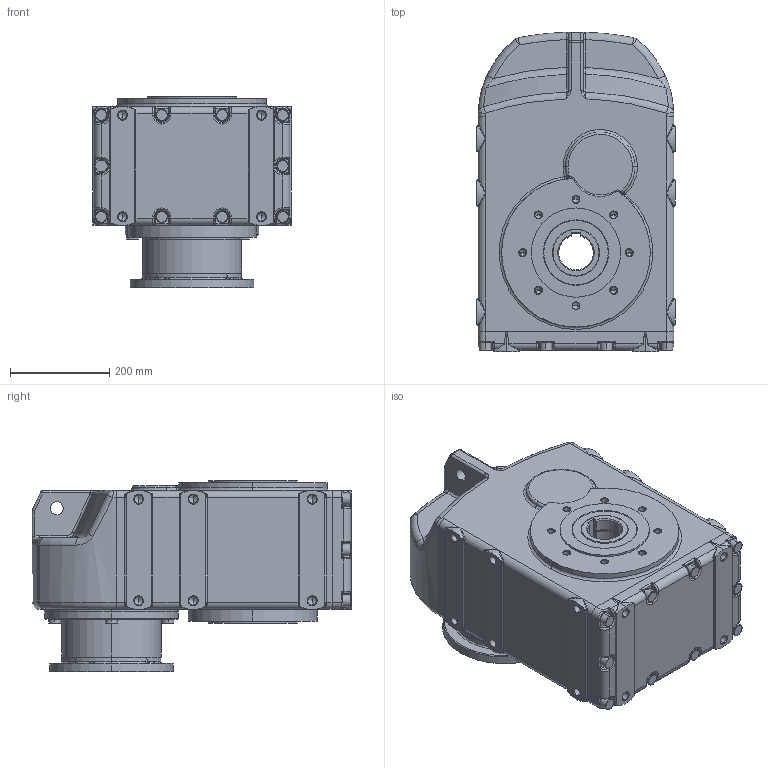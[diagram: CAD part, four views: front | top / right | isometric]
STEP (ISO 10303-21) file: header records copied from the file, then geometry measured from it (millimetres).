
FILE_DESCRIPTION (( 'STEP AP214' ), '1' );
FILE_NAME ('tnc63-f215-ap100.STEP', '2009-09-17T11:00:12', ( '' ), ( '' ), 'SwSTEP 2.0', 'SolidWorks 2003240', '' );
FILE_SCHEMA (( 'AUTOMOTIVE_DESIGN' ));
Length unit declared in the file: millimetre
Products named in the file (4): Skøíò TNC6_Skøíò TNC63 AP100; D6912_Šroub DIN 6912 - M14x35; Pøíruba MTC72A kulatá _180-215-250; tnc63-f215-ap100
Assembly tree (8 placements, depth 2):
  tnc63-f215-ap100
    D6912_Šroub DIN 6912 - M14x35  x6
    Pøíruba MTC72A kulatá _180-215-250
    Skøíò TNC6_Skøíò TNC63 AP100
Bounding box: 400 x 645 x 387 mm (x, y, z)
Volume: 61250050.3 mm3; surface area: 1336358 mm2
Topology: 8 solids, 8 shells, 1270 faces, 2899 edges, 1579 vertices
Faces by surface type: cylinder 430, plane 251, cone 227, bspline 176, torus 173, sphere 13
Entity records: 133518 total; most frequent: CARTESIAN_POINT 108974, DIRECTION 5170, ORIENTED_EDGE 4890, EDGE_CURVE 2445, AXIS2_PLACEMENT_3D 2159, VERTEX_POINT 1424, CIRCLE 1239, EDGE_LOOP 1169
